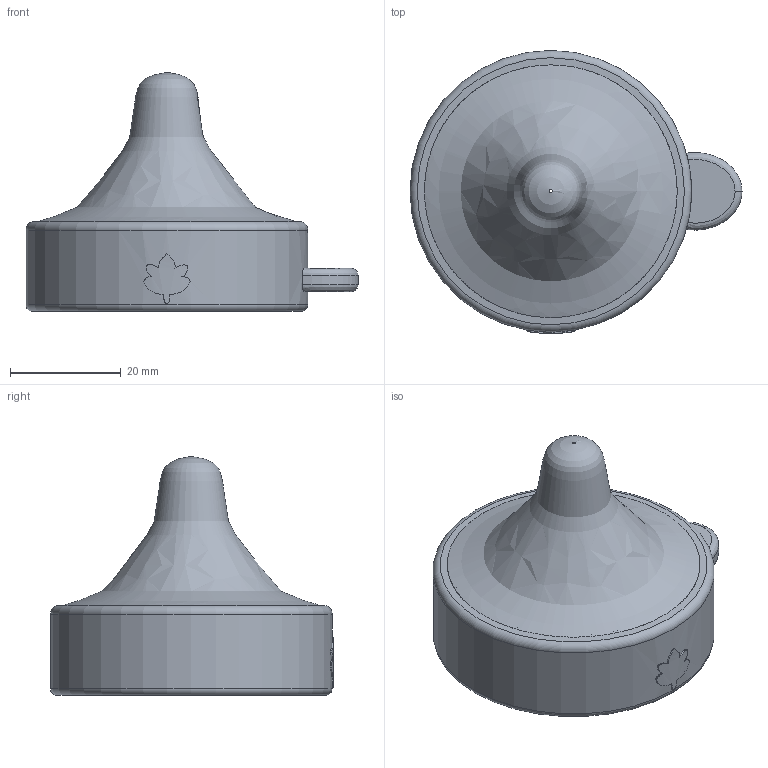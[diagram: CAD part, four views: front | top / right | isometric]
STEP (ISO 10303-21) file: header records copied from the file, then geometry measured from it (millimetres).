
FILE_DESCRIPTION(('Open CASCADE Model'),'2;1');
FILE_NAME('Open CASCADE Shape Model','2026-11-09T11:50:28',('Author'),( 'Open CASCADE'),'Open CASCADE STEP processor 7.8','Open CASCADE 7.8' ,'Unknown');
FILE_SCHEMA(('AUTOMOTIVE_DESIGN { 1 0 10303 214 1 1 1 1 }'));
Length unit declared in the file: millimetre
Products named in the file (1): Open CASCADE STEP translator 7.8 2
Bounding box: 59.91 x 51.06 x 43.04 mm (x, y, z)
Volume: 16416.9 mm3; surface area: 10296.9 mm2
Topology: 1 solids, 1 shells, 35 faces, 85 edges, 54 vertices
Faces by surface type: extrusion 14, torus 6, plane 5, cylinder 4, bspline 4, revolution 2
Full cylindrical faces by diameter (mm): 0.55 x1, 43.1 x1, 50.8 x1
Entity records: 5872 total; most frequent: CARTESIAN_POINT 4374, DIRECTION 195, ORIENTED_EDGE 170, PCURVE 170, DEFINITIONAL_REPRESENTATION 170, B_SPLINE_CURVE_WITH_KNOTS 131, VECTOR 111, LINE 97
